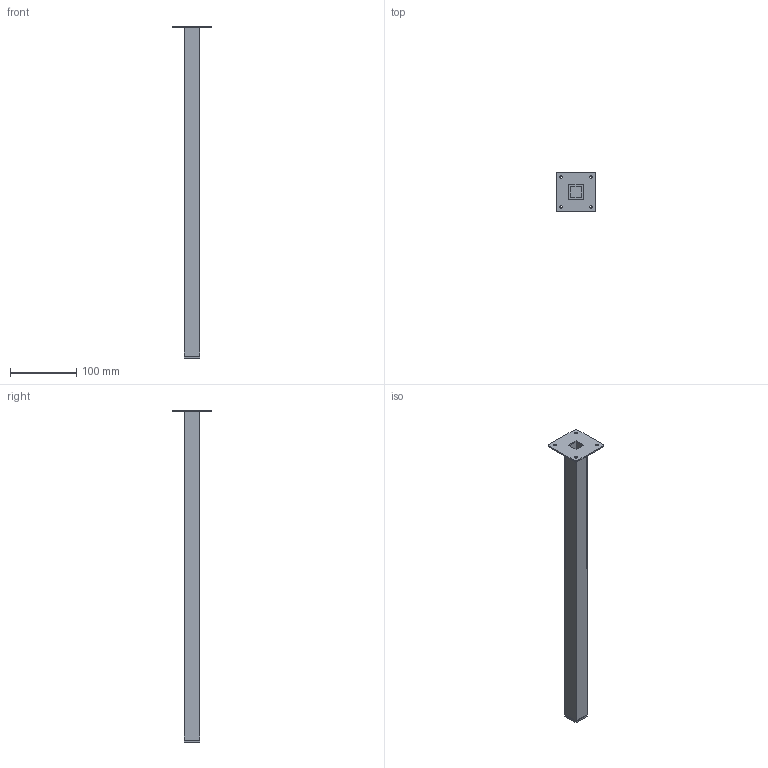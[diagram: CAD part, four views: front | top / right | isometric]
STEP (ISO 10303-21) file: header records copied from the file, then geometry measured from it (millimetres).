
FILE_DESCRIPTION( ( '' ), '1' );
FILE_NAME( 'D:/temp/hettich_stp/hettich/6.5_furniture_legs/table_legs/46264.stp', '2013-02-26T12:27:15', ( '' ), ( '' ), ' ', ' ', ' ' );
FILE_SCHEMA( ( 'automotive_design' ) );
Length unit declared in the file: millimetre
Products named in the file (1): 1
Bounding box: 60 x 60 x 500 mm (x, y, z)
Volume: 53830.4 mm3; surface area: 99798.9 mm2
Topology: 1 solids, 1 shells, 43 faces, 108 edges, 72 vertices
Faces by surface type: plane 31, cylinder 12
Entity records: 2570 total; most frequent: STYLED_ITEM 224, PRESENTATION_STYLE_ASSIGNMENT 224, CARTESIAN_POINT 224, COLOUR_RGB 224, DIRECTION 220, ORIENTED_EDGE 216, EDGE_CURVE 108, CURVE_STYLE 108
